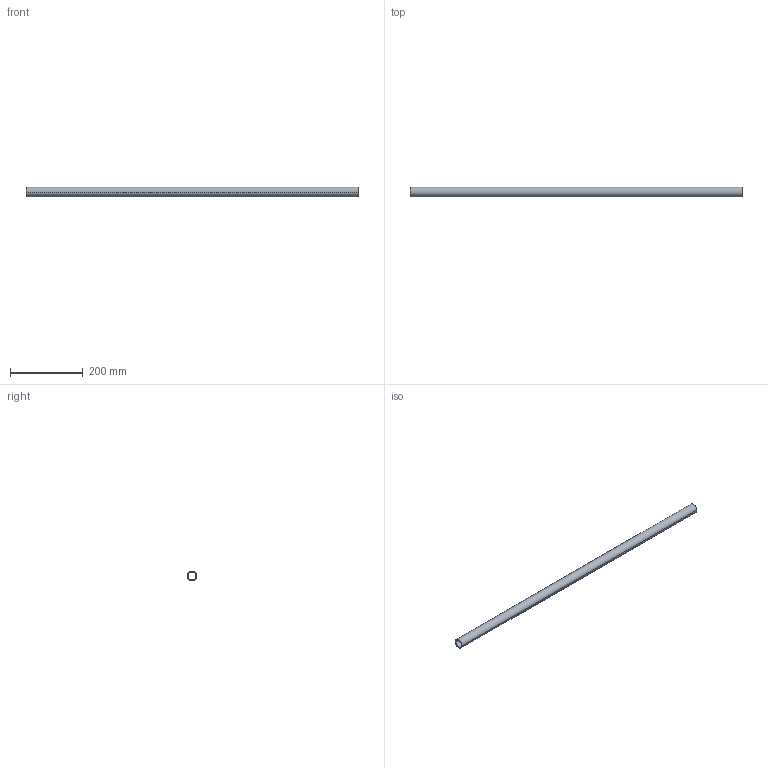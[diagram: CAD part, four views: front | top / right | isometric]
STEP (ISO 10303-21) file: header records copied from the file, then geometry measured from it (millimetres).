
FILE_DESCRIPTION (( 'STEP AP214' ), '1' );
FILE_NAME ('CCJ029-REP.356 - LISSE EXCROISSANCE FILE A''.STEP', '2025-11-04T10:52:55', ( '' ), ( '' ), 'SwSTEP 2.0', 'SolidWorks 2021', '' );
FILE_SCHEMA (( 'AUTOMOTIVE_DESIGN' ));
Length unit declared in the file: millimetre
Products named in the file (1): CCJ029-REP.356 - LISSE EXCROISSANCE FILE A''
Bounding box: 915 x 26.9 x 26.9 mm (x, y, z)
Volume: 162642.5 mm3; surface area: 141783.7 mm2
Topology: 1 solids, 1 shells, 6 faces, 12 edges, 8 vertices
Faces by surface type: cylinder 4, plane 2
Entity records: 202 total; most frequent: DIRECTION 34, CARTESIAN_POINT 27, ORIENTED_EDGE 24, AXIS2_PLACEMENT_3D 15, EDGE_CURVE 12, EDGE_LOOP 8, VERTEX_POINT 8, CIRCLE 8
